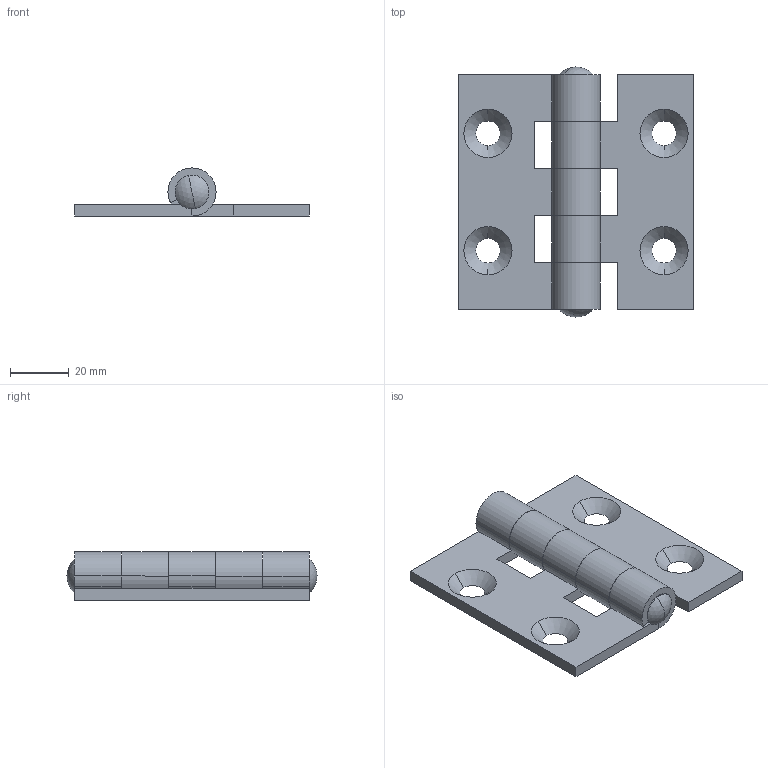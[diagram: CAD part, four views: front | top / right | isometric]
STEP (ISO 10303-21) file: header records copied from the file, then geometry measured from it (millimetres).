
FILE_DESCRIPTION (( 'STEP AP214' ), '1' );
FILE_NAME ('3.ST58.001.STEP', '2010-02-18T16:58:02', ( 'Rak' ), ( 'ROZTOCZE' ), 'SwSTEP 2.0', 'SolidWorks 2004231', '' );
FILE_SCHEMA (( 'AUTOMOTIVE_DESIGN' ));
Length unit declared in the file: millimetre
Products named in the file (5): 3.ST58.001.02_Domyœlna; 3.ST58.001.03_Domyœlna; Ele2_Domyœlna; 3.ST58.001; 3.ST58.001.01_Domyœlna
Assembly tree (5 placements, depth 2):
  3.ST58.001
    3.ST58.001.02_Domyœlna
    3.ST58.001.03_Domyœlna
    Ele2_Domyœlna  x2
    3.ST58.001.01_Domyœlna
Bounding box: 80 x 85.2 x 16.4 mm (x, y, z)
Volume: 33630.3 mm3; surface area: 21584 mm2
Topology: 5 solids, 5 shells, 90 faces, 218 edges, 138 vertices
Faces by surface type: plane 42, cylinder 36, cone 8, sphere 4
Entity records: 2700 total; most frequent: DIRECTION 482, CARTESIAN_POINT 436, ORIENTED_EDGE 420, EDGE_CURVE 210, AXIS2_PLACEMENT_3D 179, VERTEX_POINT 133, LINE 124, VECTOR 124
